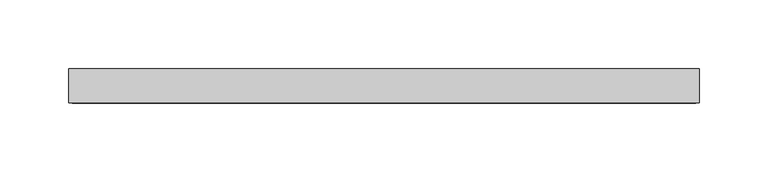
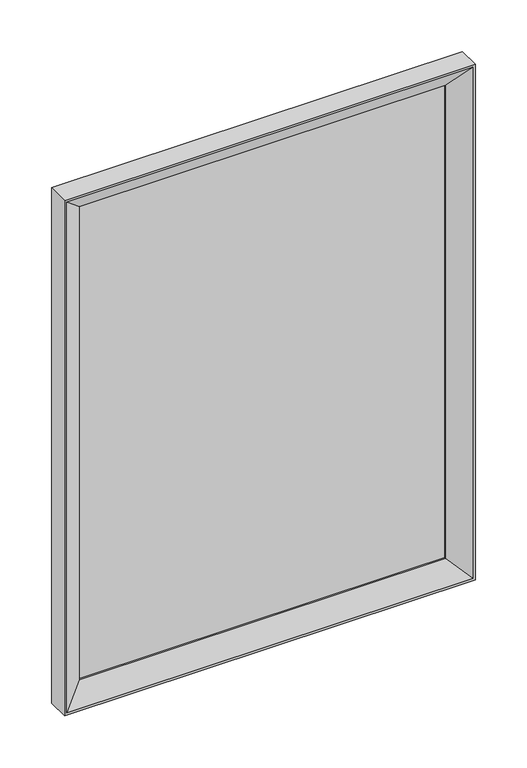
"""IFC4 building model written with IfcOpenShell, lengths in millimetres: proxy geometry, Mirror_Metlam_Framed : 460w x 25d x 610h (ML771)."""

from ifc_helpers import new_model, si_unit, frame, origin, place, context, project, spatial, polyline, outline, extrude, faceted_brep, source, transform, mapped, element, save


def specialty_equipment_52607908(model_context):
    return source(origin(), model_context, "Body", "SolidModel", [
        extrude(outline(polyline([(228.0, -2.0), (228.0, -8.0), (-228.0, -8.0), (-228.0, -2.0), (228.0, -2.0)])), frame((0.0, 0.0, 902.0), z_axis=(0.0, 0.0, 1.0), x_axis=(1.0, 0.0, 0.0)), (0.0, 0.0, 1.0), 606.0),
        faceted_brep([(-230.0, -25.0, 1510.0), (-230.0, 0.0, 1510.0), (-230.0, 0.0, 900.0), (-230.0, -25.0, 900.0), (-205.0, 0.0, 1485.0), (-205.0, -2.0, 1485.0), (-205.0, -2.0, 925.0), (-205.0, 0.0, 925.0), (230.0, 0.0, 900.0), (230.0, -25.0, 900.0), (205.0, -2.0, 925.0), (205.0, 0.0, 925.0), (230.0, 0.0, 1510.0), (230.0, -25.0, 1510.0), (205.0, -2.0, 1485.0), (205.0, 0.0, 1485.0), (-227.4054586, -25.0, 1507.4054586), (227.4054586, -25.0, 1507.4054586), (227.4054586, -25.0, 902.5945414), (-227.4054586, -25.0, 902.5945414), (-228.0, -2.0, 1508.0), (-228.0, -23.0, 1508.0), (-228.0, -23.0, 902.0), (-228.0, -2.0, 902.0), (-205.0, -8.0, 1485.0), (-205.0, -8.0, 925.0), (-205.0, -10.3877444, 1485.0), (-205.0, -10.3877444, 925.0), (228.0, -23.0, 902.0), (228.0, -2.0, 902.0), (205.0, -8.0, 925.0), (205.0, -10.3877444, 925.0), (228.0, -23.0, 1508.0), (228.0, -2.0, 1508.0), (205.0, -8.0, 1485.0), (205.0, -10.3877444, 1485.0)], [[[0, 1, 2, 3]], [[4, 5, 6, 7]], [[3, 2, 8, 9]], [[7, 6, 10, 11]], [[9, 8, 12, 13]], [[11, 10, 14, 15]], [[13, 12, 1, 0]], [[1, 12, 8, 2], [7, 11, 15, 4]], [[15, 14, 5, 4]], [[3, 9, 13, 0], [16, 17, 18, 19]], [[20, 21, 22, 23]], [[21, 24, 25, 22]], [[24, 26, 27, 25]], [[26, 16, 19, 27]], [[23, 22, 28, 29]], [[22, 25, 30, 28]], [[25, 27, 31, 30]], [[27, 19, 18, 31]], [[29, 28, 32, 33]], [[28, 30, 34, 32]], [[30, 31, 35, 34]], [[31, 18, 17, 35]], [[23, 29, 33, 20], [5, 14, 10, 6]], [[33, 32, 21, 20]], [[32, 34, 24, 21]], [[34, 35, 26, 24]], [[35, 17, 16, 26]]]),
    ])


if __name__ == "__main__":
    model = new_model("IFC4")
    model_context = context("Model", 3, world=origin())
    ifc_project = project(units=[si_unit("LENGTHUNIT", "METRE", prefix="MILLI")], contexts=[model_context])
    site = spatial("IfcSite", under=ifc_project)
    building = spatial("IfcBuilding", under=site)
    placement = place(None, origin())
    specialty_equipment_shape = specialty_equipment_52607908(model_context)
    element("IfcBuildingElementProxy", 1, Name="Mirror_Metlam_Framed : 460w x 25d x 610h (ML771)", ObjectType="Mirror_Metlam_Framed : 460w x 25d x 610h (ML771)", at=placement, inside=building, context=model_context, shape_type="MappedRepresentation", body=[
        mapped(specialty_equipment_shape, transform((0.0, 0.0, 0.0), x_axis=(1.0, 0.0, 0.0), y_axis=(0.0, 1.0, 0.0), z_axis=(0.0, 0.0, 1.0))),
    ])
    save(model, "model.ifc")
